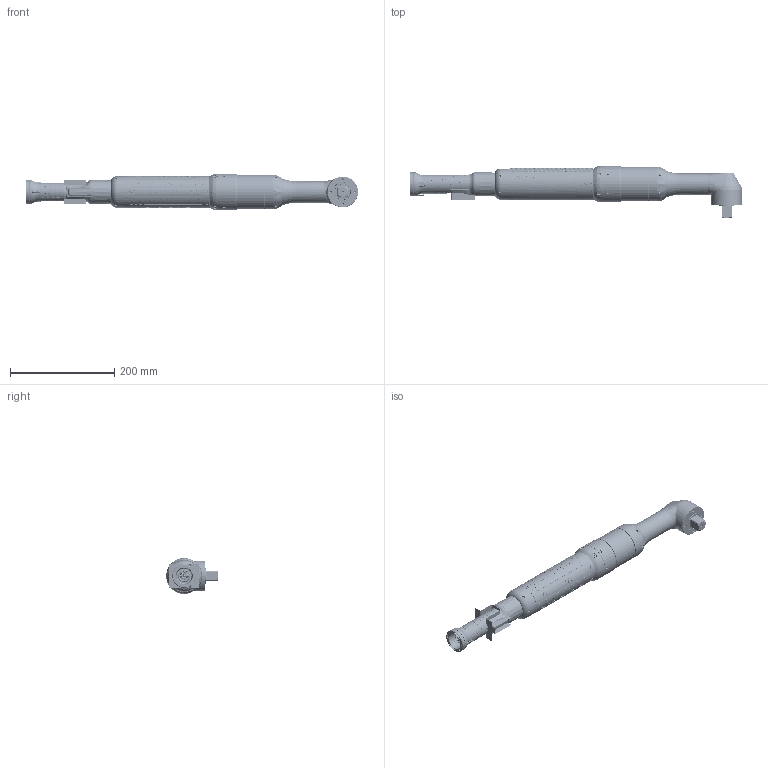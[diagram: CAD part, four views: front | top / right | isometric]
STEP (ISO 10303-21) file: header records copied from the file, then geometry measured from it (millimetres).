
FILE_DESCRIPTION((''),'2;1');
FILE_NAME('70EAN205NA6_ASM','2019-02-18T',('QC717'),(''),'CREO PARAMETRIC BY PTC INC, 2016130','CREO PARAMETRIC BY PTC INC, 2016130','');
FILE_SCHEMA(('CONFIG_CONTROL_DESIGN'));
Products named in the file (166): 3D_WIRES; 961558PT; 961692PT; 961565PT_DUP; 961564PT; 961575PT; 961559PT_DUP; 961667PT; SHR-09V-S-B; 119625-T-_61_253__KONTAKTST_DUP; 961557PT; ETHERNET_CONN; 961557PT_ASM; 7908-0101-XX; AD22151; XE18235; XE18236; SM12B-SRSS-TB; BM09B-SRSS-TB; BM02B-SRSS-TB; 527451297; CAPACITOR; 11020FL210014-XX; SRU3028-100Y; 0420CDMCBDS-220MC; GRM32ER71H106KA12; 525591652; D303; D201; D305; 8817-0101-XX_ASM; 961668PT_ASM; 863454_INSTALLED; SHR-12V-S-B; 961594PT; 961594PT_DUP_ASM; 207903PT; 207906PT; PCB2033; PCA9624BS_STIFFENER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
Assembly tree (230 placements, depth 7):
  70EAN205NA6_ASM
    T50-3000150_ASM
      T50-3000148_ASM
        3D_WIRES
        961558PT
        961692PT
        961565PT_DUP  x4
        961564PT
        961575PT
        961559PT_DUP
        961667PT
        961557PT_ASM
          SHR-09V-S-B
          119625-T-_61_253__KONTAKTST_DUP  x2
          961557PT
          ETHERNET_CONN
        961668PT_ASM
          8817-0101-XX_ASM
            7908-0101-XX
            AD22151  x4
            XE18235
            XE18236
            SM12B-SRSS-TB
            BM09B-SRSS-TB
            BM02B-SRSS-TB
            527451297
            CAPACITOR  x2
            11020FL210014-XX
            SRU3028-100Y  x2
            0420CDMCBDS-220MC
            GRM32ER71H106KA12
            525591652
            D303
            D201  x2
            D305
        863454_INSTALLED
        961594PT_DUP_ASM
          SHR-12V-S-B  x2
          961594PT
        207903PT
        207905PT_INST_ASM
          207906PT
          PCB2033_INST_ASM
            PCB2033
            PCA9624BS_STIFFENER  x2
            PCA9624BS
            CAT24C256
            BUZZER_DUP
            XZFBB81FS  x16
            CLM3ABK  x2
          207907PT_OBS_ASM
            207907PT
            208867PT
            208868PT
          207908PT_INSTALLED
        207967PT_INSTALLED
        207964PT
        207925PT
        207949PT
        207951PT_INSTALLED
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Bounding box: 636.79 x 99.05 x 69 mm (x, y, z)
Volume: 864828.7 mm3; surface area: 694151.3 mm2
Topology: 225 solids, 254 shells, 20607 faces, 55485 edges, 35361 vertices
Faces by surface type: plane 9234, cylinder 4851, bspline 2366, extrusion 1795, cone 1324, torus 851, sphere 122, revolution 64
Entity records: 750789 total; most frequent: CARTESIAN_POINT 319355, ORIENTED_EDGE 96282, DIRECTION 78893, EDGE_CURVE 48217, VERTEX_POINT 30725, AXIS2_PLACEMENT_3D 26339, VECTOR 26153, LINE 24490
